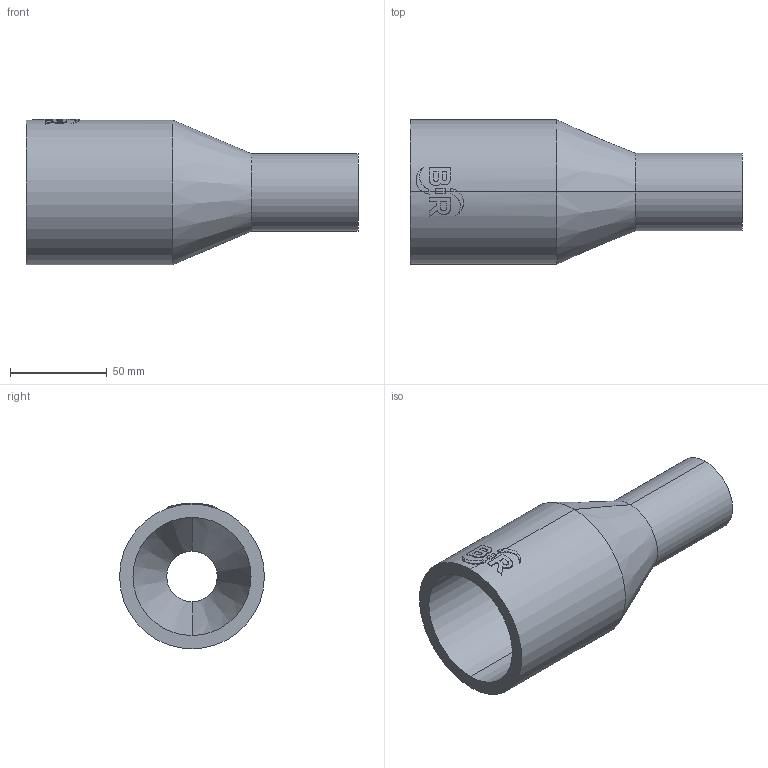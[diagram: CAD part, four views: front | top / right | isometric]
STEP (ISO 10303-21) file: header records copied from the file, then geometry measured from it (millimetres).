
FILE_DESCRIPTION (( 'STEP AP214' ), '1' );
FILE_NAME ('2323120915.STEP', '2018-07-20T11:32:55', ( '' ), ( '' ), 'SwSTEP 2.0', 'SolidWorks 2017', '' );
FILE_SCHEMA (( 'AUTOMOTIVE_DESIGN' ));
Length unit declared in the file: millimetre
Products named in the file (1): 2323120915
Bounding box: 172 x 75 x 75.46 mm (x, y, z)
Volume: 200118.7 mm3; surface area: 60271.2 mm2
Topology: 1 solids, 1 shells, 63 faces, 160 edges, 104 vertices
Faces by surface type: cylinder 31, plane 28, cone 4
Entity records: 3094 total; most frequent: CARTESIAN_POINT 885, ORIENTED_EDGE 320, DIRECTION 296, EDGE_CURVE 160, AXIS2_PLACEMENT_3D 112, VERTEX_POINT 104, VECTOR 72, LINE 72
